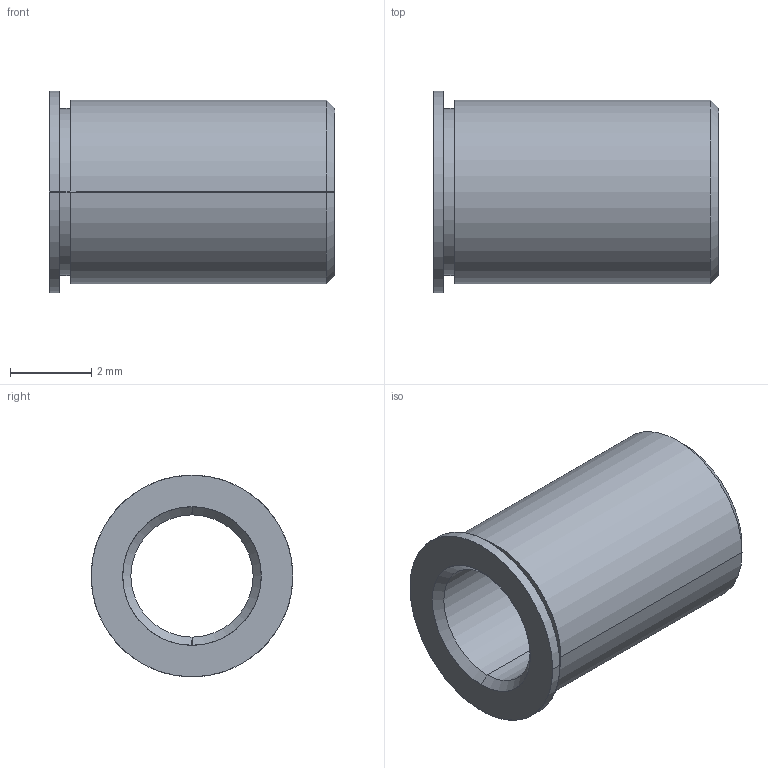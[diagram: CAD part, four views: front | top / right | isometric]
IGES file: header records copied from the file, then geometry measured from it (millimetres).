
Start section: SolidWorks IGES file using analytic representation for surfaces
Global section: file name: C:\Users\workpc\Desktop\KMA Solidworks\Metric Bushings\Metric Bushings IGES\TB3-25-07.IGS; native system: SolidWorks 2013; preprocessor: SolidWorks 2013; author: workpc; date: 130312.090555; units: millimetre
Bounding box: 7 x 4.95 x 4.95 mm (x, y, z)
Surface area: 190.9 mm2 (no closed solid volume)
Topology: 0 solids, 0 shells, 18 faces, 312 edges, 312 vertices
Faces by surface type: revolution 14, bspline 4
